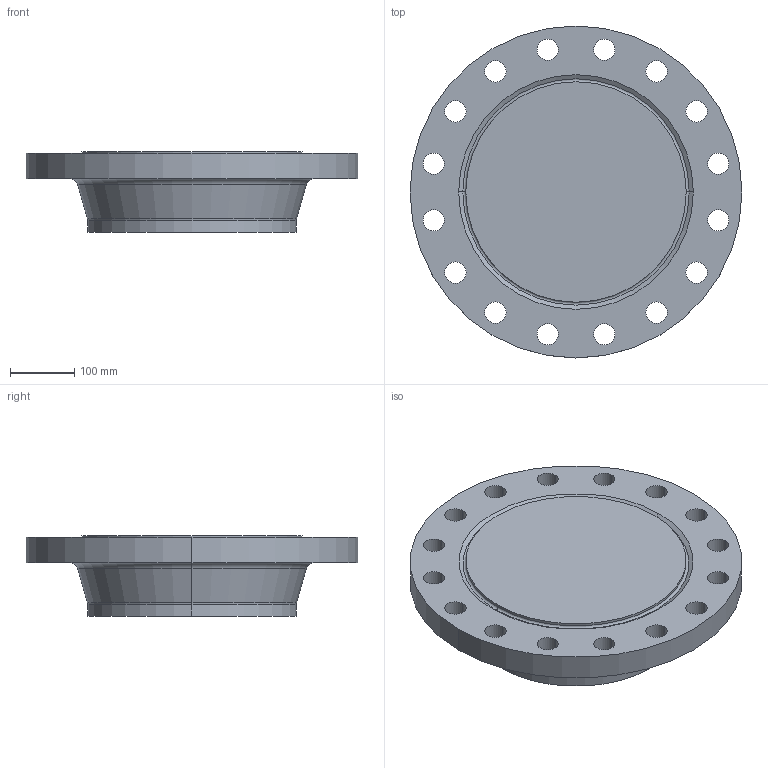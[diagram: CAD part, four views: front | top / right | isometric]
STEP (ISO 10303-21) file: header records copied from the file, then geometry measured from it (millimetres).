
FILE_DESCRIPTION (( 'STEP AP214' ), '1' );
FILE_NAME ('PN40 DN300 Type 21(ii) - Type H Face.STEP', '2019-01-05T18:57:54', ( '' ), ( '' ), 'SwSTEP 2.0', 'SolidWorks 2019', '' );
FILE_SCHEMA (( 'AUTOMOTIVE_DESIGN' ));
Length unit declared in the file: millimetre
Products named in the file (1): PN40 DN300 Type 21(ii) - Type H Face
Bounding box: 515 x 515 x 125 mm (x, y, z)
Volume: 15340390.8 mm3; surface area: 594706.9 mm2
Topology: 1 solids, 1 shells, 52 faces, 134 edges, 86 vertices
Faces by surface type: cylinder 38, torus 6, cone 4, plane 4
Entity records: 1728 total; most frequent: DIRECTION 332, CARTESIAN_POINT 273, ORIENTED_EDGE 268, AXIS2_PLACEMENT_3D 145, EDGE_CURVE 134, CIRCLE 92, VERTEX_POINT 86, EDGE_LOOP 86
